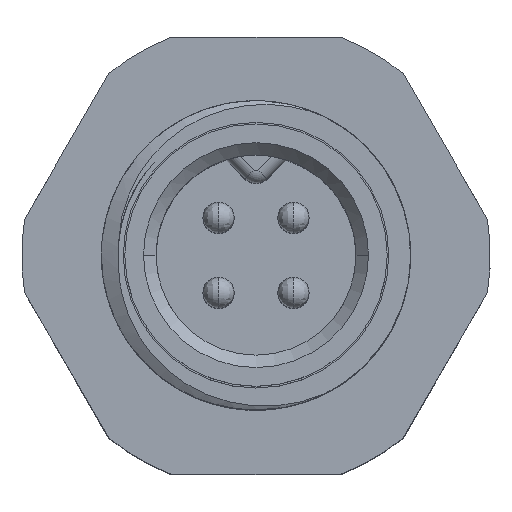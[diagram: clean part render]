
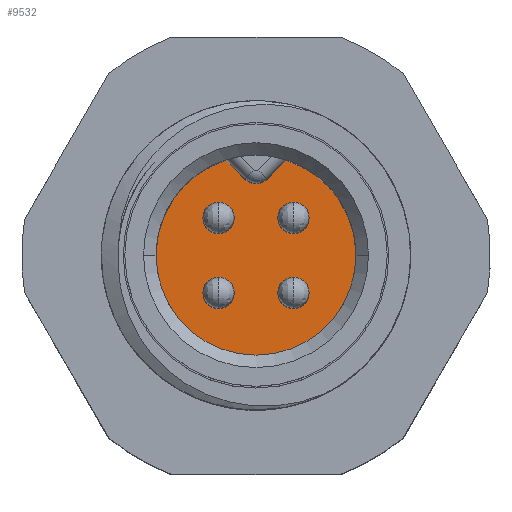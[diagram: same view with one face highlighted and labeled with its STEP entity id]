
A CAD part, top view. The second image highlights one B-rep face of the part: STEP entity #9532.
In plain terms, the highlighted planar face has unit normal (0, 0, 1).
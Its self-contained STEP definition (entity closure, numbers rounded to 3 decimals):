
#359 = VECTOR ( 'NONE', #797, 1000. ) ;
#416 = CARTESIAN_POINT ( 'NONE',  ( 0.48, 1.526, -5. ) ) ;
#429 = CARTESIAN_POINT ( 'NONE',  ( 0.6, 0.6, -5. ) ) ;
#496 = EDGE_CURVE ( 'NONE', #13913, #3317, #6537, .T. ) ;
#797 = DIRECTION ( 'NONE',  ( -0.707, 0.707, 0. ) ) ;
#948 = EDGE_CURVE ( 'NONE', #2780, #13492, #7674, .T. ) ;
#1099 = EDGE_LOOP ( 'NONE', ( #15414, #15759, #7503, #13501 ) ) ;
#1273 = DIRECTION ( 'NONE',  ( -1., 0., 0. ) ) ;
#1447 = ORIENTED_EDGE ( 'NONE', *, *, #14805, .T. ) ;
#1704 = EDGE_LOOP ( 'NONE', ( #5498, #7945 ) ) ;
#1717 = DIRECTION ( 'NONE',  ( 0., 0., -1. ) ) ;
#1741 = CIRCLE ( 'NONE', #16517, 0.25 ) ;
#2369 = ORIENTED_EDGE ( 'NONE', *, *, #3743, .T. ) ;
#2545 = DIRECTION ( 'NONE',  ( 1., 0., 0. ) ) ;
#2656 = CARTESIAN_POINT ( 'NONE',  ( 0.6, 0.85, -5. ) ) ;
#2780 = VERTEX_POINT ( 'NONE', #8545 ) ;
#2929 = AXIS2_PLACEMENT_3D ( 'NONE', #3934, #12815, #11393 ) ;
#2972 = AXIS2_PLACEMENT_3D ( 'NONE', #18228, #8402, #2545 ) ;
#3003 = EDGE_CURVE ( 'NONE', #3317, #13913, #3063, .T. ) ;
#3027 = CARTESIAN_POINT ( 'NONE',  ( -0.6, -0.6, -5. ) ) ;
#3063 = CIRCLE ( 'NONE', #13631, 0.25 ) ;
#3173 = DIRECTION ( 'NONE',  ( 1., 0., 0. ) ) ;
#3317 = VERTEX_POINT ( 'NONE', #4274 ) ;
#3637 = EDGE_CURVE ( 'NONE', #17102, #15231, #12395, .T. ) ;
#3743 = EDGE_CURVE ( 'NONE', #15231, #17102, #8515, .T. ) ;
#3849 = AXIS2_PLACEMENT_3D ( 'NONE', #7934, #16528, #12273 ) ;
#3928 = CIRCLE ( 'NONE', #5728, 0.25 ) ;
#3934 = CARTESIAN_POINT ( 'NONE',  ( 0.6, 0.6, -5. ) ) ;
#3983 = CARTESIAN_POINT ( 'NONE',  ( 0.177, 1.223, -5. ) ) ;
#4050 = FACE_BOUND ( 'NONE', #9689, .T. ) ;
#4274 = CARTESIAN_POINT ( 'NONE',  ( 0.6, -0.85, -5. ) ) ;
#4788 = DIRECTION ( 'NONE',  ( -1., 0., 0. ) ) ;
#4847 = DIRECTION ( 'NONE',  ( 0., 0., -1. ) ) ;
#4936 = EDGE_LOOP ( 'NONE', ( #9596, #1447 ) ) ;
#5323 = CARTESIAN_POINT ( 'NONE',  ( -0.6, 0.35, -5. ) ) ;
#5372 = PLANE ( 'NONE',  #2972 ) ;
#5498 = ORIENTED_EDGE ( 'NONE', *, *, #948, .T. ) ;
#5728 = AXIS2_PLACEMENT_3D ( 'NONE', #429, #4847, #17622 ) ;
#6140 = DIRECTION ( 'NONE',  ( -1., 0., 0. ) ) ;
#6434 = VERTEX_POINT ( 'NONE', #2656 ) ;
#6537 = CIRCLE ( 'NONE', #14687, 0.25 ) ;
#7465 = CIRCLE ( 'NONE', #2929, 0.25 ) ;
#7503 = ORIENTED_EDGE ( 'NONE', *, *, #10446, .T. ) ;
#7668 = EDGE_CURVE ( 'NONE', #10824, #7818, #12161, .T. ) ;
#7674 = CIRCLE ( 'NONE', #9190, 0.25 ) ;
#7818 = VERTEX_POINT ( 'NONE', #416 ) ;
#7855 = ORIENTED_EDGE ( 'NONE', *, *, #3637, .T. ) ;
#7934 = CARTESIAN_POINT ( 'NONE',  ( 0., 1.4, -5. ) ) ;
#7945 = ORIENTED_EDGE ( 'NONE', *, *, #15279, .T. ) ;
#8066 = CARTESIAN_POINT ( 'NONE',  ( -0.177, 1.223, -5. ) ) ;
#8088 = DIRECTION ( 'NONE',  ( -1., 0., 0. ) ) ;
#8218 = FACE_BOUND ( 'NONE', #17318, .T. ) ;
#8402 = DIRECTION ( 'NONE',  ( 0., 0., 1. ) ) ;
#8468 = AXIS2_PLACEMENT_3D ( 'NONE', #13578, #12153, #15091 ) ;
#8491 = CARTESIAN_POINT ( 'NONE',  ( 0.6, -0.35, -5. ) ) ;
#8515 = CIRCLE ( 'NONE', #15769, 0.25 ) ;
#8529 = CARTESIAN_POINT ( 'NONE',  ( -0.6, -0.35, -5. ) ) ;
#8545 = CARTESIAN_POINT ( 'NONE',  ( -0.6, -0.85, -5. ) ) ;
#9031 = DIRECTION ( 'NONE',  ( 0., 0., 1. ) ) ;
#9190 = AXIS2_PLACEMENT_3D ( 'NONE', #3027, #1717, #6140 ) ;
#9532 = ADVANCED_FACE ( 'NONE', ( #8218, #4050, #12372, #15592, #13889 ), #5372, .T. ) ;
#9596 = ORIENTED_EDGE ( 'NONE', *, *, #13178, .T. ) ;
#9689 = EDGE_LOOP ( 'NONE', ( #16519, #15060 ) ) ;
#9772 = CARTESIAN_POINT ( 'NONE',  ( 0.6, -0.6, -5. ) ) ;
#10331 = CARTESIAN_POINT ( 'NONE',  ( 0.6, 0.35, -5. ) ) ;
#10446 = EDGE_CURVE ( 'NONE', #12772, #10824, #13922, .T. ) ;
#10650 = AXIS2_PLACEMENT_3D ( 'NONE', #16125, #9031, #3173 ) ;
#10695 = LINE ( 'NONE', #12389, #16005 ) ;
#10824 = VERTEX_POINT ( 'NONE', #12012 ) ;
#11097 = CARTESIAN_POINT ( 'NONE',  ( -0.6, -0.6, -5. ) ) ;
#11393 = DIRECTION ( 'NONE',  ( -1., 0., 0. ) ) ;
#11902 = CARTESIAN_POINT ( 'NONE',  ( -0.6, 0.85, -5. ) ) ;
#11993 = CIRCLE ( 'NONE', #3849, 0.25 ) ;
#12012 = CARTESIAN_POINT ( 'NONE',  ( -0.48, 1.526, -5. ) ) ;
#12098 = VERTEX_POINT ( 'NONE', #10331 ) ;
#12153 = DIRECTION ( 'NONE',  ( 0., 0., -1. ) ) ;
#12161 = CIRCLE ( 'NONE', #10650, 1.6 ) ;
#12231 = DIRECTION ( 'NONE',  ( -1., 0., 0. ) ) ;
#12264 = EDGE_CURVE ( 'NONE', #7818, #16133, #10695, .T. ) ;
#12273 = DIRECTION ( 'NONE',  ( 1., 0., 0. ) ) ;
#12338 = DIRECTION ( 'NONE',  ( 0., 0., -1. ) ) ;
#12372 = FACE_BOUND ( 'NONE', #1704, .T. ) ;
#12389 = CARTESIAN_POINT ( 'NONE',  ( 0.48, 1.526, -5. ) ) ;
#12395 = CIRCLE ( 'NONE', #8468, 0.25 ) ;
#12699 = DIRECTION ( 'NONE',  ( 0., 0., -1. ) ) ;
#12772 = VERTEX_POINT ( 'NONE', #14328 ) ;
#12815 = DIRECTION ( 'NONE',  ( 0., 0., -1. ) ) ;
#13178 = EDGE_CURVE ( 'NONE', #6434, #12098, #3928, .T. ) ;
#13492 = VERTEX_POINT ( 'NONE', #8529 ) ;
#13501 = ORIENTED_EDGE ( 'NONE', *, *, #7668, .T. ) ;
#13578 = CARTESIAN_POINT ( 'NONE',  ( -0.6, 0.6, -5. ) ) ;
#13631 = AXIS2_PLACEMENT_3D ( 'NONE', #9772, #16866, #12231 ) ;
#13889 = FACE_OUTER_BOUND ( 'NONE', #1099, .T. ) ;
#13913 = VERTEX_POINT ( 'NONE', #8491 ) ;
#13922 = LINE ( 'NONE', #8066, #359 ) ;
#14328 = CARTESIAN_POINT ( 'NONE',  ( -0.177, 1.223, -5. ) ) ;
#14687 = AXIS2_PLACEMENT_3D ( 'NONE', #18016, #15199, #4788 ) ;
#14805 = EDGE_CURVE ( 'NONE', #12098, #6434, #7465, .T. ) ;
#15060 = ORIENTED_EDGE ( 'NONE', *, *, #496, .T. ) ;
#15091 = DIRECTION ( 'NONE',  ( -1., 0., 0. ) ) ;
#15199 = DIRECTION ( 'NONE',  ( 0., 0., -1. ) ) ;
#15231 = VERTEX_POINT ( 'NONE', #5323 ) ;
#15278 = CARTESIAN_POINT ( 'NONE',  ( -0.6, 0.6, -5. ) ) ;
#15279 = EDGE_CURVE ( 'NONE', #13492, #2780, #1741, .T. ) ;
#15414 = ORIENTED_EDGE ( 'NONE', *, *, #12264, .T. ) ;
#15592 = FACE_BOUND ( 'NONE', #4936, .T. ) ;
#15759 = ORIENTED_EDGE ( 'NONE', *, *, #16297, .T. ) ;
#15769 = AXIS2_PLACEMENT_3D ( 'NONE', #15278, #12338, #8088 ) ;
#16005 = VECTOR ( 'NONE', #16459, 1000. ) ;
#16125 = CARTESIAN_POINT ( 'NONE',  ( 0., 0., -5. ) ) ;
#16133 = VERTEX_POINT ( 'NONE', #3983 ) ;
#16297 = EDGE_CURVE ( 'NONE', #16133, #12772, #11993, .T. ) ;
#16459 = DIRECTION ( 'NONE',  ( -0.707, -0.707, 0. ) ) ;
#16517 = AXIS2_PLACEMENT_3D ( 'NONE', #11097, #12699, #1273 ) ;
#16519 = ORIENTED_EDGE ( 'NONE', *, *, #3003, .T. ) ;
#16528 = DIRECTION ( 'NONE',  ( 0., 0., -1. ) ) ;
#16866 = DIRECTION ( 'NONE',  ( 0., 0., -1. ) ) ;
#17102 = VERTEX_POINT ( 'NONE', #11902 ) ;
#17318 = EDGE_LOOP ( 'NONE', ( #7855, #2369 ) ) ;
#17622 = DIRECTION ( 'NONE',  ( -1., 0., 0. ) ) ;
#18016 = CARTESIAN_POINT ( 'NONE',  ( 0.6, -0.6, -5. ) ) ;
#18228 = CARTESIAN_POINT ( 'NONE',  ( 0., 0., -5. ) ) ;
